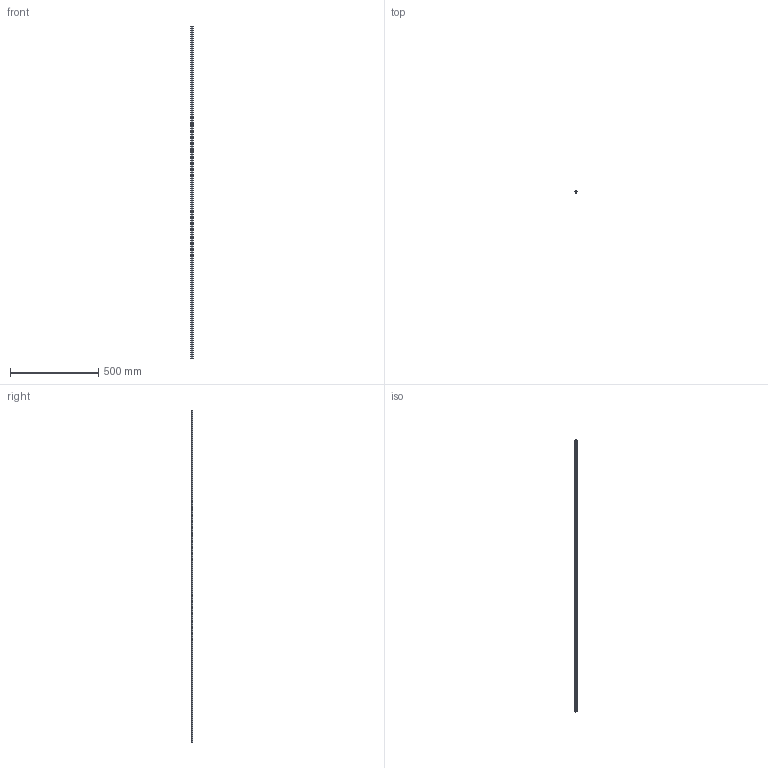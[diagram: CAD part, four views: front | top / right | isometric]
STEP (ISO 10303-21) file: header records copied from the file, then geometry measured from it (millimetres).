
FILE_DESCRIPTION(('STEP AP203'),'1');
FILE_NAME('slide_nms12l1886p2.stp','2022-07-01T04:19:49',('TraceParts'),('TraceParts S.A.'),'Spatial InterOp 3D',' ',' ');
FILE_SCHEMA(('CONFIG_CONTROL_DESIGN'));
Length unit declared in the file: millimetre
Products named in the file (1): 1
Bounding box: 11.63 x 8.1 x 1886 mm (x, y, z)
Volume: 113028.2 mm3; surface area: 80580.8 mm2
Topology: 1 solids, 1 shells, 240 faces, 588 edges, 392 vertices
Faces by surface type: cylinder 180, plane 60
Entity records: 7484 total; most frequent: DIRECTION 1430, CARTESIAN_POINT 1221, ORIENTED_EDGE 1176, AXIS2_PLACEMENT_3D 601, EDGE_CURVE 588, VERTEX_POINT 392, EDGE_LOOP 366, CIRCLE 360
